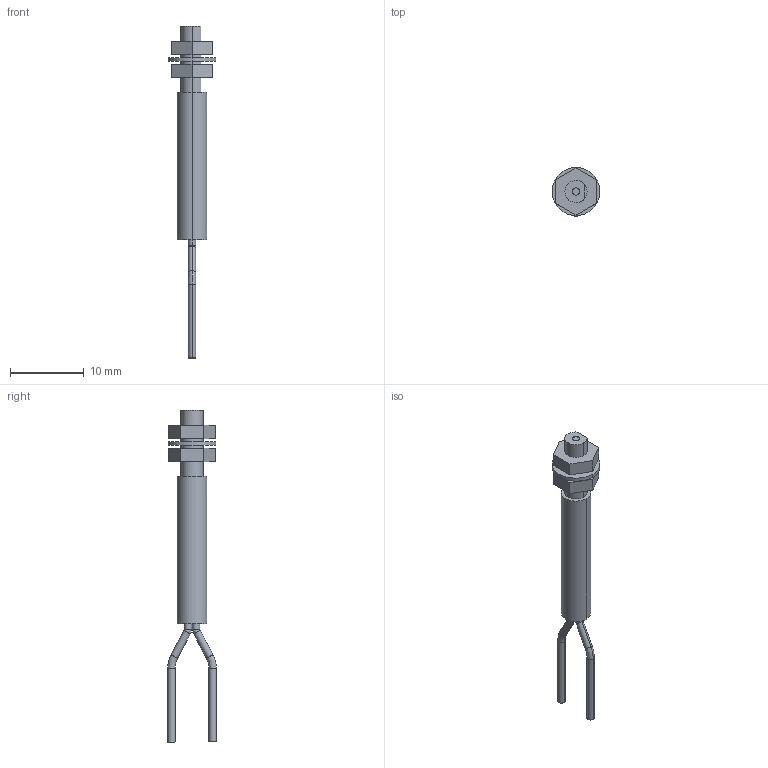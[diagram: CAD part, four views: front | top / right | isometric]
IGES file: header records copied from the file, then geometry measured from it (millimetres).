
Start section: SolidWorks IGES FILE using analytic representation for surfaces
Global section: file name: C:\Documents and Settings\yk0651\デスクトップ\3D_catalog_050904\0_IGES\FD-P40.IGS; native system: SolidWorks 2004 by SolidWorks Corporation; preprocessor: Version 5.3; author: yk0651; date: 050904.191148; units: millimetre
Bounding box: 6.5 x 6.6 x 45 mm (x, y, z)
Volume: 419.4 mm3; surface area: 710.4 mm2
Topology: 4 solids, 4 shells, 60 faces, 128 edges, 80 vertices
Faces by surface type: revolution 35, plane 25
